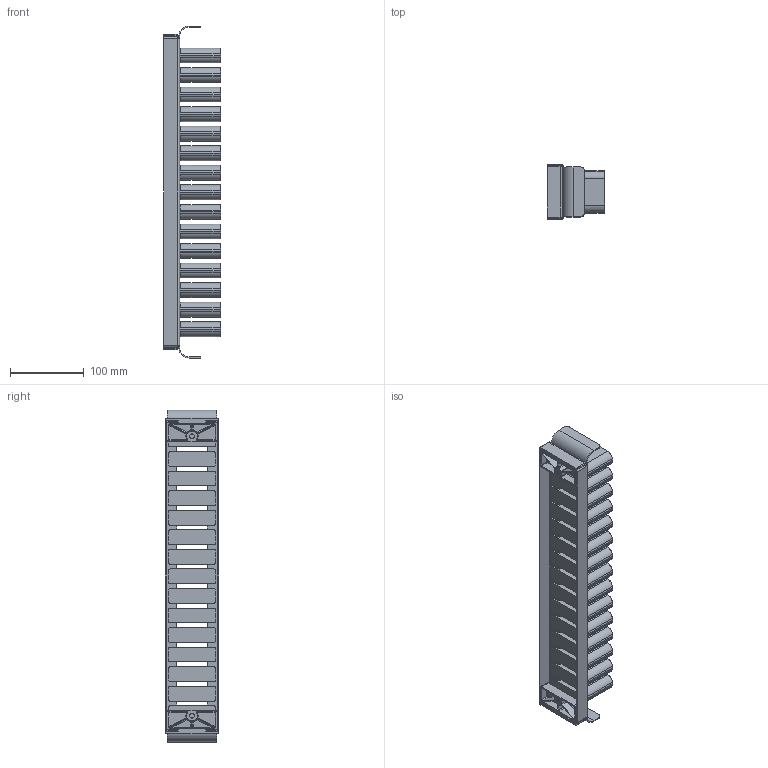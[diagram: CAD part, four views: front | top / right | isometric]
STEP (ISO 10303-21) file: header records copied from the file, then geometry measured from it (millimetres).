
FILE_DESCRIPTION((''),'2;1');
FILE_NAME('238384_SW0001','2022-12-02T09:39:24',('1ke04'),('Kesseboehmer'),'CREO PARAMETRIC BY PTC INC, 2020414','CREO PARAMETRIC BY PTC INC, 2020414','');
FILE_SCHEMA(('AUTOMOTIVE_DESIGN { 1 0 10303 214 1 1 1 1 }'));
Products named in the file (1): 238384_SW0001
Bounding box: 77.3 x 73 x 450 mm (x, y, z)
Volume: 445053.8 mm3; surface area: 350196 mm2
Topology: 1 solids, 1 shells, 2151 faces, 5321 edges, 3168 vertices
Faces by surface type: cylinder 765, plane 678, bspline 368, torus 196, sphere 84, cone 60
Entity records: 95306 total; most frequent: CARTESIAN_POINT 33495, ORIENTED_EDGE 10642, DIRECTION 9131, EDGE_CURVE 5321, AXIS2_PLACEMENT_3D 3294, VERTEX_POINT 3168, VECTOR 2540, LINE 2540
